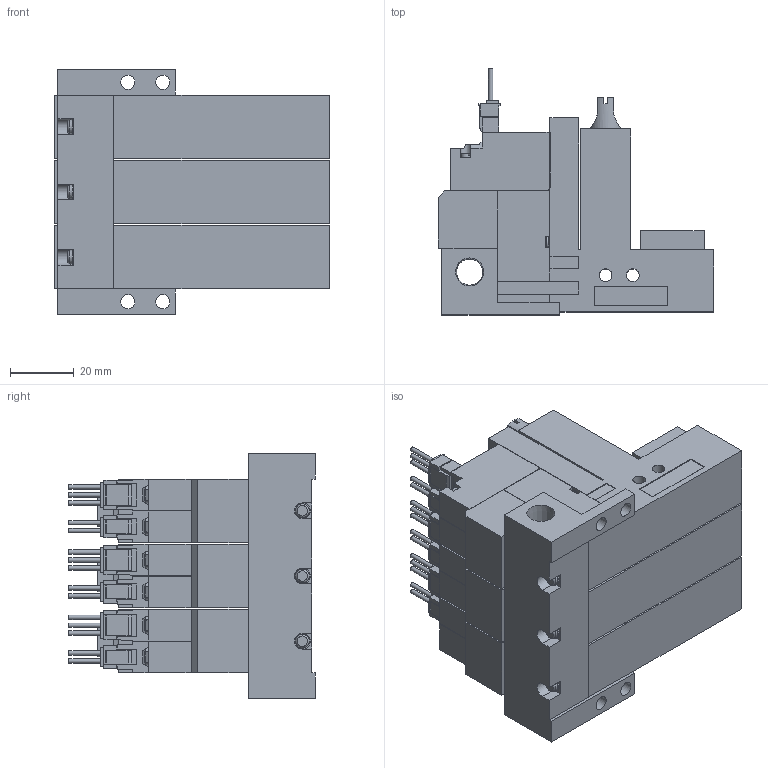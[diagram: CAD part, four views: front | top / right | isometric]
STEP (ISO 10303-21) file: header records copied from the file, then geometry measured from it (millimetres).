
FILE_DESCRIPTION(('STEP AP203'),'1');
FILE_NAME('ZL5WLR303.stp','2025-02-18T07:23:13',(' '),(' '),'Spatial InterOp 3D',' ',' ');
FILE_SCHEMA(('CONFIG_CONTROL_DESIGN'));
Length unit declared in the file: millimetre
Products named in the file (5): BMC22M※※※※ZL5WLR303; Solenoid valve W; Pressure sensor ZL; Unit L; Base MR30R
Assembly tree (10 placements, depth 2):
  BMC22M※※※※ZL5WLR303
    Solenoid valve W  x3
    Pressure sensor ZL  x3
    Unit L  x3
    Base MR30R
Bounding box: 86.6 x 77.45 x 77 mm (x, y, z)
Volume: 235787.2 mm3; surface area: 67938.6 mm2
Topology: 10 solids, 10 shells, 1002 faces, 2723 edges, 1798 vertices
Faces by surface type: plane 860, cylinder 110, cone 23, torus 9
Full cylindrical faces by diameter (mm): 1.4 x15, 2.5 x3, 3 x12, 3.5 x12, 3.6 x3, 4 x6, 4.134 x3, 4.5 x4, 5.2 x3, 6 x3, 6.6 x3, 8.279 x1
Entity records: 11876 total; most frequent: CARTESIAN_POINT 2222, ORIENTED_EDGE 1890, DIRECTION 1875, EDGE_CURVE 945, LINE 787, VECTOR 787, VERTEX_POINT 656, AXIS2_PLACEMENT_3D 544
